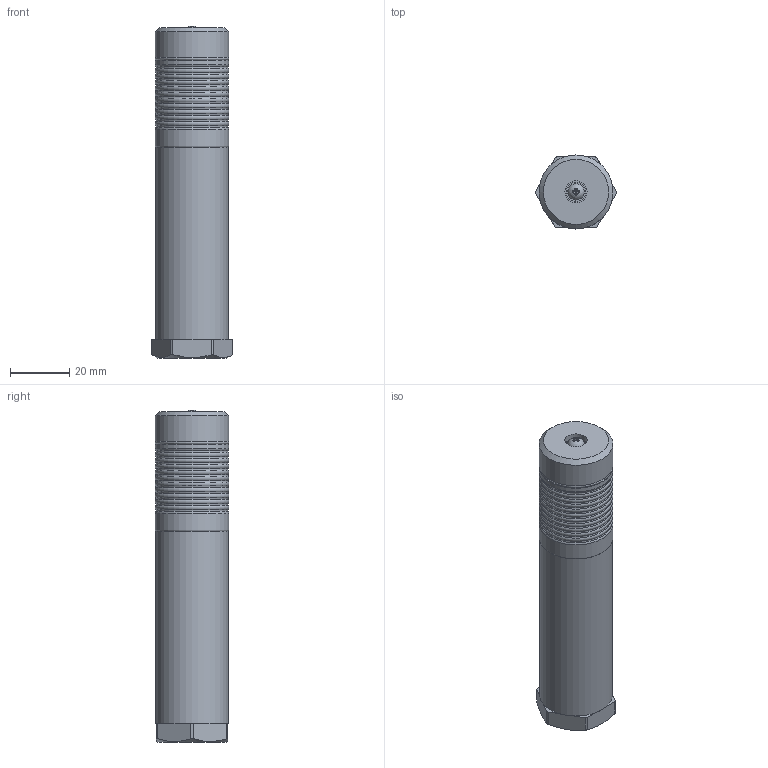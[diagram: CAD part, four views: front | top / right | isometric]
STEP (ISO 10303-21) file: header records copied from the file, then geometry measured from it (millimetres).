
FILE_DESCRIPTION(('STEP AP214'), '1');
FILE_NAME('TL25-024-R', '', ('UNSPECIFIED'), ('UNSPECIFIED'), 'C3D Converter', 'C3D Toolkit', '');
FILE_SCHEMA(('AUTOMOTIVE_DESIGN { 1 0 10303 214 3 1 1}'));
Length unit declared in the file: millimetre
Assembly tree (8 placements, depth 2):
  (unnamed)
    (unnamed)
    (unnamed)
    (unnamed)  x2
    (unnamed)
    (unnamed)
    (unnamed)
    (unnamed)
Bounding box: 27.3 x 25 x 112.22 mm (x, y, z)
Volume: 32059.7 mm3; surface area: 19470.2 mm2
Topology: 8 solids, 8 shells, 89 faces, 193 edges, 119 vertices
Faces by surface type: plane 41, torus 25, cylinder 19, cone 3, sphere 1
Full cylindrical faces by diameter (mm): 2 x1, 3 x2, 5.5 x1, 6.5 x1, 7.5 x1, 16 x1, 20 x1, 20.752 x1, 24.5 x1, 25 x3
Entity records: 3460 total; most frequent: CARTESIAN_POINT 651, DIRECTION 422, ORIENTED_EDGE 298, AXIS2_PLACEMENT_3D 182, EDGE_CURVE 149, EDGE_LOOP 138, VERTEX_POINT 117, ADVANCED_FACE 88
